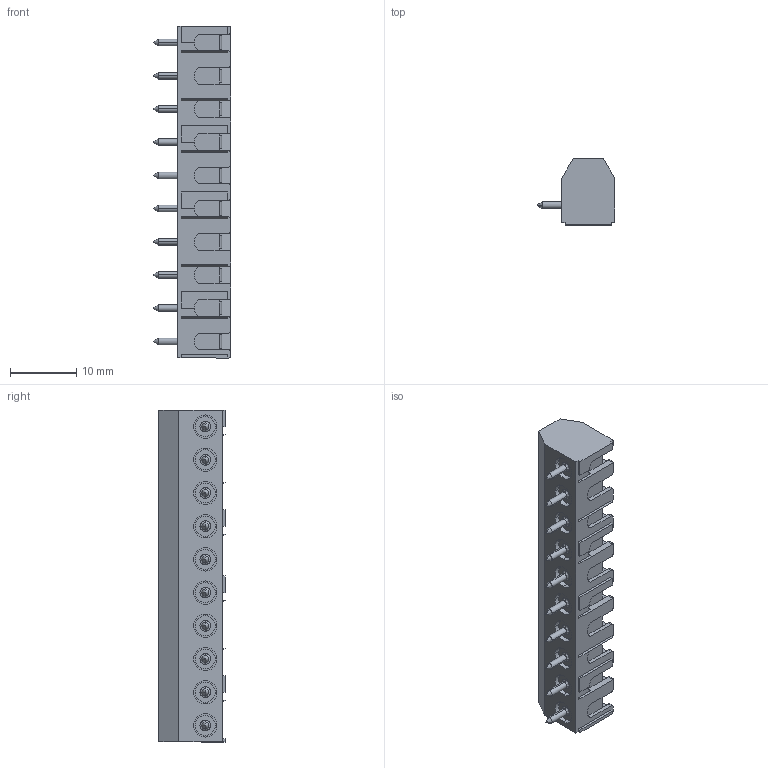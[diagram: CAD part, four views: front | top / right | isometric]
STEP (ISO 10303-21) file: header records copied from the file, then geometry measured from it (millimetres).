
FILE_DESCRIPTION (( 'STEP AP214' ), '1' );
FILE_NAME ('951-DS-10.STEP', '2008-03-10T04:30:20', ( ' ' ), ( '' ), 'SwSTEP 2.0', 'SolidWorks 2007', '' );
FILE_SCHEMA (( 'AUTOMOTIVE_DESIGN' ));
Length unit declared in the file: millimetre
Products named in the file (1): 951-DS-10
Bounding box: 11.7 x 10 x 50 mm (x, y, z)
Volume: 3025.3 mm3; surface area: 2989.8 mm2
Topology: 1 solids, 1 shells, 790 faces, 2470 edges, 1632 vertices
Faces by surface type: plane 522, cylinder 188, cone 40, bspline 40
Entity records: 29711 total; most frequent: CARTESIAN_POINT 7835, ORIENTED_EDGE 4940, DIRECTION 4238, EDGE_CURVE 2470, VERTEX_POINT 1632, VECTOR 1560, LINE 1560, AXIS2_PLACEMENT_3D 1339
